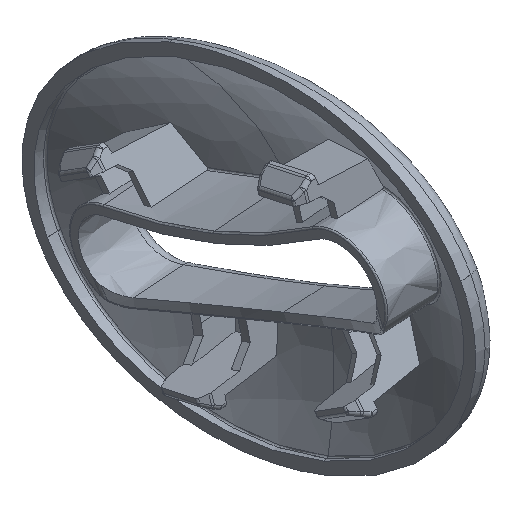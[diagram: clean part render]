
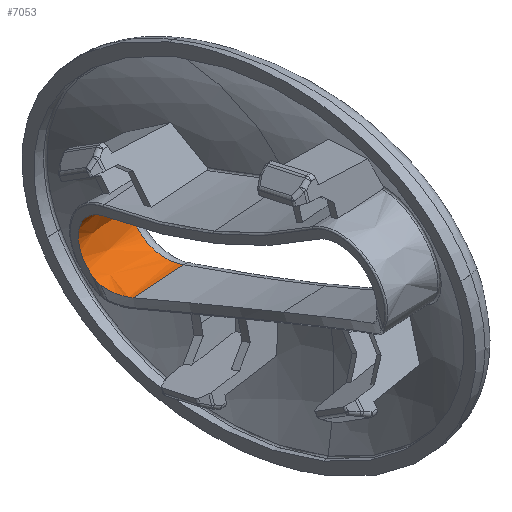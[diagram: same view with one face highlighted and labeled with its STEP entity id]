
A CAD part, isometric view. The second image highlights one B-rep face of the part: STEP entity #7053.
In plain terms, the highlighted free-form (B-spline) face has degree [5, 2] with [12, 3] control points.
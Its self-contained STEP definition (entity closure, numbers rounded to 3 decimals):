
#5774=CARTESIAN_POINT('Vertex',(608.442,-483.469,1064.889)) ;
#5780=CARTESIAN_POINT('Control Point',(608.442,-483.469,1064.889)) ;
#5781=CARTESIAN_POINT('Control Point',(608.355,-482.158,1066.059)) ;
#5782=CARTESIAN_POINT('Control Point',(608.242,-481.175,1067.605)) ;
#5783=CARTESIAN_POINT('Control Point',(608.111,-480.675,1069.404)) ;
#5784=CARTESIAN_POINT('Control Point',(607.945,-480.727,1071.7)) ;
#5785=CARTESIAN_POINT('Control Point',(607.797,-481.526,1073.752)) ;
#5786=CARTESIAN_POINT('Control Point',(607.767,-481.72,1074.159)) ;
#5787=CARTESIAN_POINT('Control Point',(607.688,-482.349,1075.264)) ;
#5788=CARTESIAN_POINT('Control Point',(607.619,-483.19,1076.219)) ;
#5789=CARTESIAN_POINT('Control Point',(607.581,-483.809,1076.758)) ;
#5790=CARTESIAN_POINT('Control Point',(607.541,-484.663,1077.323)) ;
#5791=CARTESIAN_POINT('Control Point',(607.512,-485.587,1077.738)) ;
#5792=CARTESIAN_POINT('Control Point',(607.506,-485.778,1077.816)) ;
#5793=CARTESIAN_POINT('Control Point',(607.499,-486.067,1077.924)) ;
#5794=CARTESIAN_POINT('Control Point',(607.492,-486.362,1078.017)) ;
#5795=CARTESIAN_POINT('Control Point',(607.49,-486.46,1078.046)) ;
#5796=CARTESIAN_POINT('Control Point',(607.486,-486.658,1078.101)) ;
#5797=CARTESIAN_POINT('Control Point',(607.483,-486.858,1078.15)) ;
#5798=CARTESIAN_POINT('Control Point',(607.481,-486.959,1078.173)) ;
#5799=CARTESIAN_POINT('Control Point',(607.48,-487.059,1078.194)) ;
#5800=CARTESIAN_POINT('Control Point',(607.479,-487.16,1078.213)) ;
#5801=CARTESIAN_POINT('Vertex',(607.479,-487.16,1078.213)) ;
#6456=CARTESIAN_POINT('Vertex',(608.706,-485.048,1063.811)) ;
#6462=CARTESIAN_POINT('Control Point',(608.706,-485.048,1063.811)) ;
#6463=CARTESIAN_POINT('Control Point',(608.579,-484.652,1064.01)) ;
#6464=CARTESIAN_POINT('Control Point',(608.506,-484.243,1064.258)) ;
#6465=CARTESIAN_POINT('Control Point',(608.466,-483.846,1064.553)) ;
#6466=CARTESIAN_POINT('Control Point',(608.442,-483.469,1064.889)) ;
#6632=CARTESIAN_POINT('Vertex',(610.473,-490.116,1063.191)) ;
#6636=CARTESIAN_POINT('Control Point',(608.706,-485.048,1063.811)) ;
#6637=CARTESIAN_POINT('Control Point',(609.083,-486.222,1063.221)) ;
#6638=CARTESIAN_POINT('Control Point',(609.538,-487.52,1062.914)) ;
#6639=CARTESIAN_POINT('Control Point',(610.014,-488.846,1062.912)) ;
#6640=CARTESIAN_POINT('Control Point',(610.473,-490.116,1063.191)) ;
#6963=CARTESIAN_POINT('Control Point',(607.756,-490.114,1063.017)) ;
#6964=CARTESIAN_POINT('Control Point',(614.602,-490.118,1063.455)) ;
#6965=CARTESIAN_POINT('Control Point',(621.448,-490.123,1063.893)) ;
#6966=CARTESIAN_POINT('Control Point',(607.345,-488.349,1062.643)) ;
#6967=CARTESIAN_POINT('Control Point',(614.191,-488.339,1063.079)) ;
#6968=CARTESIAN_POINT('Control Point',(621.037,-488.33,1063.514)) ;
#6969=CARTESIAN_POINT('Control Point',(606.965,-486.472,1062.785)) ;
#6970=CARTESIAN_POINT('Control Point',(613.81,-486.448,1063.221)) ;
#6971=CARTESIAN_POINT('Control Point',(620.656,-486.424,1063.657)) ;
#6972=CARTESIAN_POINT('Control Point',(606.652,-484.682,1063.496)) ;
#6973=CARTESIAN_POINT('Control Point',(613.497,-484.644,1063.938)) ;
#6974=CARTESIAN_POINT('Control Point',(620.343,-484.607,1064.38)) ;
#6975=CARTESIAN_POINT('Control Point',(606.18,-481.913,1065.782)) ;
#6976=CARTESIAN_POINT('Control Point',(613.024,-481.854,1066.242)) ;
#6977=CARTESIAN_POINT('Control Point',(619.869,-481.795,1066.702)) ;
#6978=CARTESIAN_POINT('Control Point',(605.976,-480.756,1069.17)) ;
#6979=CARTESIAN_POINT('Control Point',(612.818,-480.688,1069.656)) ;
#6980=CARTESIAN_POINT('Control Point',(619.66,-480.619,1070.142)) ;
#6981=CARTESIAN_POINT('Control Point',(605.946,-480.656,1070.874)) ;
#6982=CARTESIAN_POINT('Control Point',(612.787,-480.587,1071.373)) ;
#6983=CARTESIAN_POINT('Control Point',(619.628,-480.518,1071.873)) ;
#6984=CARTESIAN_POINT('Control Point',(606.054,-481.315,1073.98)) ;
#6985=CARTESIAN_POINT('Control Point',(612.893,-481.251,1074.503)) ;
#6986=CARTESIAN_POINT('Control Point',(619.733,-481.188,1075.026)) ;
#6987=CARTESIAN_POINT('Control Point',(606.489,-483.297,1076.41)) ;
#6988=CARTESIAN_POINT('Control Point',(613.327,-483.249,1076.952)) ;
#6989=CARTESIAN_POINT('Control Point',(620.165,-483.201,1077.494)) ;
#6990=CARTESIAN_POINT('Control Point',(606.769,-484.467,1077.31)) ;
#6991=CARTESIAN_POINT('Control Point',(613.606,-484.428,1077.859)) ;
#6992=CARTESIAN_POINT('Control Point',(620.444,-484.388,1078.407)) ;
#6993=CARTESIAN_POINT('Control Point',(607.109,-485.784,1077.917)) ;
#6994=CARTESIAN_POINT('Control Point',(613.946,-485.755,1078.47)) ;
#6995=CARTESIAN_POINT('Control Point',(620.783,-485.725,1079.023)) ;
#6996=CARTESIAN_POINT('Control Point',(607.479,-487.16,1078.213)) ;
#6997=CARTESIAN_POINT('Control Point',(614.316,-487.141,1078.768)) ;
#6998=CARTESIAN_POINT('Control Point',(621.153,-487.123,1079.323)) ;
#7000=CARTESIAN_POINT('Control Point',(621.322,-490.123,1063.885)) ;
#7001=CARTESIAN_POINT('Control Point',(621.237,-489.798,1063.815)) ;
#7002=CARTESIAN_POINT('Control Point',(621.154,-489.474,1063.764)) ;
#7003=CARTESIAN_POINT('Control Point',(621.074,-489.148,1063.73)) ;
#7004=CARTESIAN_POINT('Control Point',(620.92,-488.504,1063.696)) ;
#7005=CARTESIAN_POINT('Control Point',(620.776,-487.875,1063.728)) ;
#7006=CARTESIAN_POINT('Control Point',(620.708,-487.566,1063.759)) ;
#7007=CARTESIAN_POINT('Control Point',(620.431,-486.289,1063.953)) ;
#7008=CARTESIAN_POINT('Control Point',(620.205,-485.134,1064.39)) ;
#7009=CARTESIAN_POINT('Control Point',(620.059,-484.345,1064.836)) ;
#7010=CARTESIAN_POINT('Control Point',(619.816,-482.999,1065.861)) ;
#7011=CARTESIAN_POINT('Control Point',(619.644,-482.007,1067.154)) ;
#7012=CARTESIAN_POINT('Control Point',(619.575,-481.613,1067.827)) ;
#7013=CARTESIAN_POINT('Control Point',(619.466,-480.998,1069.253)) ;
#7014=CARTESIAN_POINT('Control Point',(619.42,-480.748,1070.808)) ;
#7015=CARTESIAN_POINT('Control Point',(619.413,-480.718,1071.608)) ;
#7016=CARTESIAN_POINT('Control Point',(619.439,-480.849,1073.061)) ;
#7017=CARTESIAN_POINT('Control Point',(619.547,-481.34,1074.519)) ;
#7018=CARTESIAN_POINT('Control Point',(619.613,-481.63,1075.154)) ;
#7019=CARTESIAN_POINT('Control Point',(619.779,-482.322,1076.31)) ;
#7020=CARTESIAN_POINT('Control Point',(620.033,-483.295,1077.349)) ;
#7021=CARTESIAN_POINT('Control Point',(620.172,-483.808,1077.796)) ;
#7022=CARTESIAN_POINT('Control Point',(620.385,-484.566,1078.322)) ;
#7023=CARTESIAN_POINT('Control Point',(620.627,-485.39,1078.736)) ;
#7024=CARTESIAN_POINT('Control Point',(620.689,-485.6,1078.832)) ;
#7025=CARTESIAN_POINT('Control Point',(620.817,-486.027,1079.009)) ;
#7026=CARTESIAN_POINT('Control Point',(620.949,-486.463,1079.154)) ;
#7027=CARTESIAN_POINT('Control Point',(621.015,-486.684,1079.219)) ;
#7028=CARTESIAN_POINT('Control Point',(621.085,-486.902,1079.275)) ;
#7029=CARTESIAN_POINT('Control Point',(621.153,-487.123,1079.323)) ;
#7030=CARTESIAN_POINT('Vertex',(621.153,-487.123,1079.323)) ;
#7032=CARTESIAN_POINT('Vertex',(621.322,-490.123,1063.885)) ;
#7036=CARTESIAN_POINT('Control Point',(607.479,-487.16,1078.213)) ;
#7037=CARTESIAN_POINT('Control Point',(614.316,-487.141,1078.768)) ;
#7038=CARTESIAN_POINT('Control Point',(621.153,-487.123,1079.323)) ;
#7041=CARTESIAN_POINT('Control Point',(610.473,-490.116,1063.191)) ;
#7042=CARTESIAN_POINT('Control Point',(615.898,-490.119,1063.538)) ;
#7043=CARTESIAN_POINT('Control Point',(621.322,-490.123,1063.885)) ;
#7046=ORIENTED_EDGE('',*,*,#7034,.F.) ;
#7047=ORIENTED_EDGE('',*,*,#7039,.F.) ;
#7048=ORIENTED_EDGE('',*,*,#5803,.F.) ;
#7049=ORIENTED_EDGE('',*,*,#6467,.F.) ;
#7050=ORIENTED_EDGE('',*,*,#6641,.T.) ;
#7051=ORIENTED_EDGE('',*,*,#7044,.T.) ;
#7053=ADVANCED_FACE('\X2\7B118138\X0\-2025.03.24',(#7052),#6962,.F.) ;
#5779=B_SPLINE_CURVE_WITH_KNOTS('',5,(#5780,#5781,#5782,#5783,#5784,#5785,#5786,#5787,#5788,#5789,#5790,#5791,#5792,#5793,#5794,#5795,#5796,#5797,#5798,#5799,#5800),.UNSPECIFIED.,.F.,.U.,(6,3,3,3,3,3,6),(1.74,15.189,18.66,24.991,26.611,27.42,28.23),.UNSPECIFIED.) ;
#6461=B_SPLINE_CURVE_WITH_KNOTS('',4,(#6462,#6463,#6464,#6465,#6466),.UNSPECIFIED.,.F.,.U.,(5,5),(0.,3.882),.UNSPECIFIED.) ;
#6635=B_SPLINE_CURVE_WITH_KNOTS('',4,(#6636,#6637,#6638,#6639,#6640),.UNSPECIFIED.,.F.,.U.,(5,5),(1.23,9.498),.UNSPECIFIED.) ;
#6999=B_SPLINE_CURVE_WITH_KNOTS('',5,(#7000,#7001,#7002,#7003,#7004,#7005,#7006,#7007,#7008,#7009,#7010,#7011,#7012,#7013,#7014,#7015,#7016,#7017,#7018,#7019,#7020,#7021,#7022,#7023,#7024,#7025,#7026,#7027,#7028,#7029),.UNSPECIFIED.,.F.,.U.,(6,3,3,3,3,3,3,3,3,6),(45.095,47.362,49.63,56.938,63.773,70.573,75.871,80.504,82.058,83.611),.UNSPECIFIED.) ;
#7035=B_SPLINE_CURVE_WITH_KNOTS('',2,(#7036,#7037,#7038),.UNSPECIFIED.,.F.,.U.,(3,3),(3.773,17.493),.UNSPECIFIED.) ;
#7040=B_SPLINE_CURVE_WITH_KNOTS('',2,(#7041,#7042,#7043),.UNSPECIFIED.,.F.,.U.,(3,3),(6.496,17.368),.UNSPECIFIED.) ;
#6962=B_SPLINE_SURFACE_WITH_KNOTS('',5,2,((#6963,#6964,#6965),(#6966,#6967,#6968),(#6969,#6970,#6971),(#6972,#6973,#6974),(#6975,#6976,#6977),(#6978,#6979,#6980),(#6981,#6982,#6983),(#6984,#6985,#6986),(#6987,#6988,#6989),(#6990,#6991,#6992),(#6993,#6994,#6995),(#6996,#6997,#6998)),.UNSPECIFIED.,.F.,.F.,.U.,(6,3,3,6),(3,3),(0.,10.596,19.98,28.297),(3.773,17.493),.UNSPECIFIED.) ;
#5803=EDGE_CURVE('',#5775,#5802,#5779,.T.) ;
#6467=EDGE_CURVE('',#6457,#5775,#6461,.T.) ;
#6641=EDGE_CURVE('',#6457,#6633,#6635,.T.) ;
#7034=EDGE_CURVE('',#7031,#7033,#6999,.F.) ;
#7039=EDGE_CURVE('',#5802,#7031,#7035,.T.) ;
#7044=EDGE_CURVE('',#6633,#7033,#7040,.T.) ;
#7045=EDGE_LOOP('',(#7046,#7047,#7048,#7049,#7050,#7051)) ;
#7052=FACE_OUTER_BOUND('',#7045,.T.) ;
#5775=VERTEX_POINT('',#5774) ;
#5802=VERTEX_POINT('',#5801) ;
#6457=VERTEX_POINT('',#6456) ;
#6633=VERTEX_POINT('',#6632) ;
#7031=VERTEX_POINT('',#7030) ;
#7033=VERTEX_POINT('',#7032) ;
